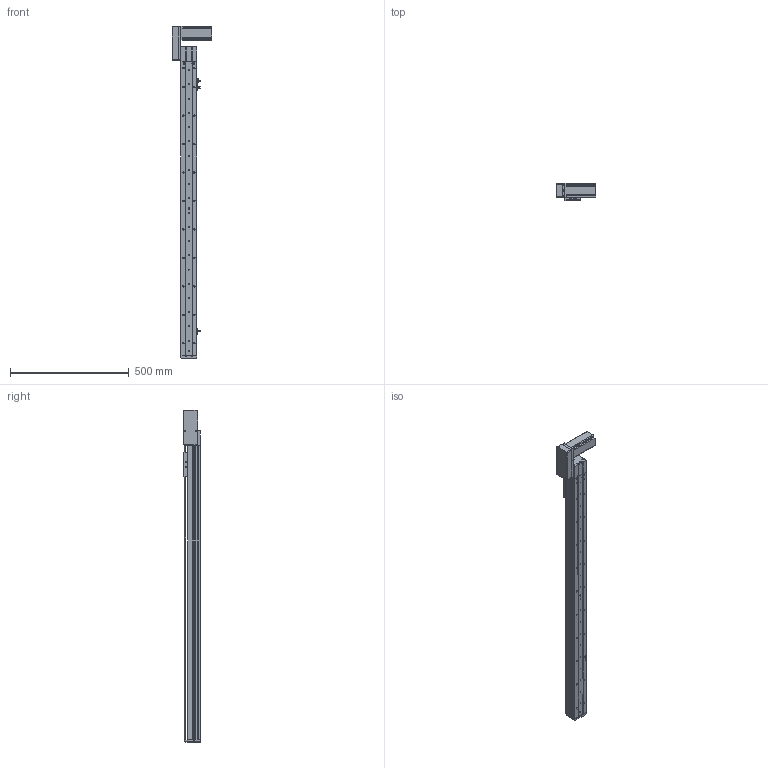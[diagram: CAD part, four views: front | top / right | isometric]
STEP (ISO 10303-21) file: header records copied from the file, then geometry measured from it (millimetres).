
FILE_DESCRIPTION (( 'STEP AP214' ), '1' );
FILE_NAME ('KSD68BS-S1050-MRB-CM.STEP', '2019-11-06T07:42:47', ( '微软用户' ), ( '微软中国' ), 'SwSTEP 2.0', 'SolidWorks 2014', '' );
FILE_SCHEMA (( 'AUTOMOTIVE_DESIGN' ));
Length unit declared in the file: millimetre
Products named in the file (11): U倰嫖萇EEㄜSX672; 台达ECMA－C20604AS伺服电机（400W); KSD68BS 1050俴最菁啣圉猾敕; KSD68BS-S1050-MRB-CM; 悵誘欶奻狟殏; 68宽马达安装板连板上折同步带; 68宽单导轨半封闭同步带主动轮座右; 68单导轨同步带半封闭端板; KSD68BS 1050俴最裔啣圉猾敕; 覜茼え68遵圉猾敕; KSD68BS半封闭同步带传动导轨座
Assembly tree (12 placements, depth 2):
  KSD68BS-S1050-MRB-CM
    KSD68BS 1050俴最菁啣圉猾敕
    台达ECMA－C20604AS伺服电机（400W)
    U倰嫖萇EEㄜSX672  x3
    KSD68BS半封闭同步带传动导轨座
    覜茼え68遵圉猾敕
    KSD68BS 1050俴最裔啣圉猾敕
    68单导轨同步带半封闭端板
    68宽单导轨半封闭同步带主动轮座右
    68宽马达安装板连板上折同步带
    悵誘欶奻狟殏
Bounding box: 167.2 x 70.5 x 1399.5 mm (x, y, z)
Volume: 2433482.9 mm3; surface area: 863857.9 mm2
Topology: 13 solids, 13 shells, 1438 faces, 4156 edges, 2704 vertices
Faces by surface type: cylinder 730, plane 625, cone 83
Entity records: 53897 total; most frequent: CARTESIAN_POINT 10466, ORIENTED_EDGE 7064, DIRECTION 6932, EDGE_CURVE 3532, AXIS2_PLACEMENT_3D 2490, VERTEX_POINT 2328, VECTOR 1952, LINE 1952
